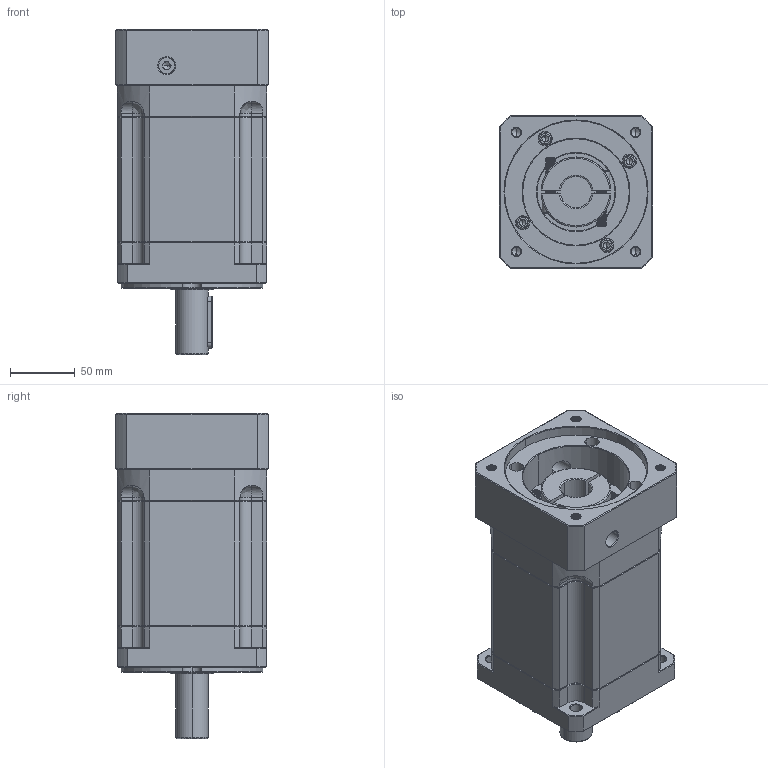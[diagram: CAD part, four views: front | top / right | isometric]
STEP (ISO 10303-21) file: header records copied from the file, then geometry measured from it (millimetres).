
FILE_DESCRIPTION (( 'STEP AP214' ), '1' );
FILE_NAME ('ZB115A-D25-L3-P2-24-110-130-M8.step', '2023-08-26T06:25:51', ( '' ), ( '' ), 'SwSTEP 2.0', 'SolidWorks 2016', '' );
FILE_SCHEMA (( 'AUTOMOTIVE_DESIGN' ));
Length unit declared in the file: millimetre
Products named in the file (1): ZB115A-D25-L3-P2-24-110-130-M8
Bounding box: 118 x 118 x 250.5 mm (x, y, z)
Volume: 2202650.1 mm3; surface area: 193859.4 mm2
Topology: 6 solids, 6 shells, 2395 faces, 6285 edges, 3990 vertices
Faces by surface type: plane 1144, cylinder 441, bspline 423, cone 367, torus 20
Entity records: 129132 total; most frequent: CARTESIAN_POINT 47364, ORIENTED_EDGE 12502, DIRECTION 9901, EDGE_CURVE 6251, VECTOR 3997, LINE 3997, VERTEX_POINT 3990, AXIS2_PLACEMENT_3D 2952
